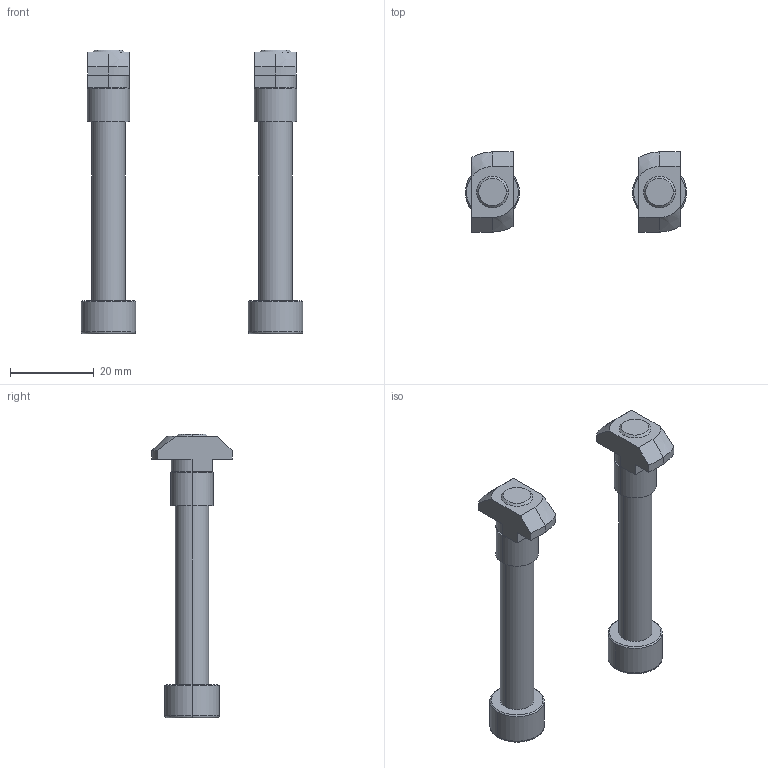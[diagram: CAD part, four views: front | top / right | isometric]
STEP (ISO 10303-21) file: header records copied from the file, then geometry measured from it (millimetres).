
FILE_DESCRIPTION (( 'STEP AP203' ), '1' );
FILE_NAME ('75000045.STEP', '2017-02-08T05:58:51', ( '' ), ( '' ), 'SwSTEP 2.0', 'SolidWorks 2015', '' );
FILE_SCHEMA (( 'CONFIG_CONTROL_DESIGN' ));
Length unit declared in the file: millimetre
Products named in the file (1): 75000045
Bounding box: 53 x 19.2 x 68 mm (x, y, z)
Volume: 9793.8 mm3; surface area: 6155.5 mm2
Topology: 2 solids, 2 shells, 92 faces, 216 edges, 140 vertices
Faces by surface type: plane 48, cylinder 28, cone 12, torus 4
Entity records: 2963 total; most frequent: CARTESIAN_POINT 717, DIRECTION 462, ORIENTED_EDGE 432, EDGE_CURVE 216, AXIS2_PLACEMENT_3D 165, VERTEX_POINT 140, LINE 132, VECTOR 132
